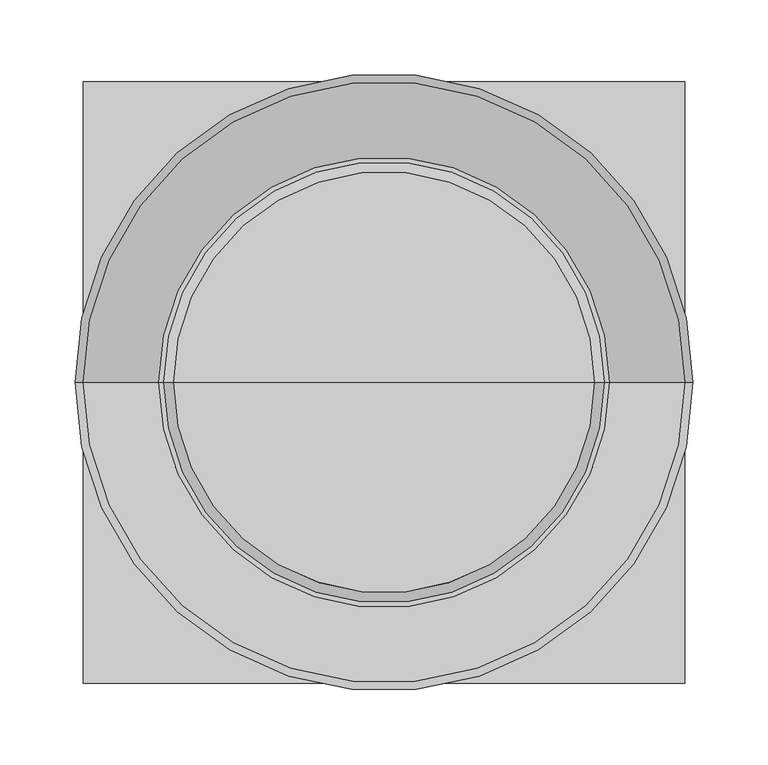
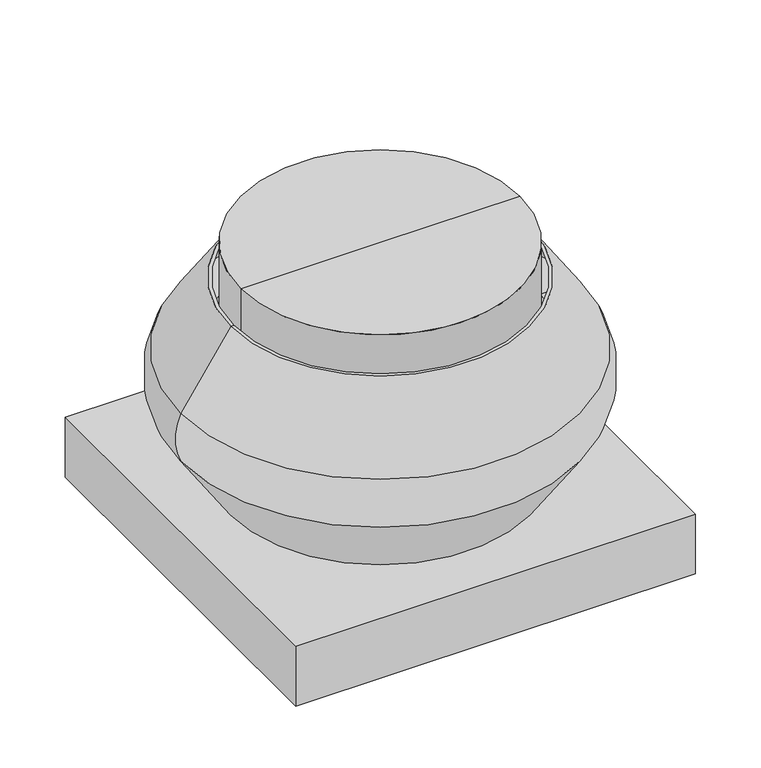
"""IFC4 building model written with IfcOpenShell, lengths in millimetres: unitary equipment geometry, M_Centrifugal Fan -  Rooftop  - Upblast : 991-1905 LPS."""

import ifcopenshell
import ifcopenshell.guid

model = None  # the IFC model being written
_history = None  # IfcOwnerHistory: only IFC2X3 demands one
_inside = {}  # id of a spatial element -> (the spatial element, [elements in it])
_under = {}  # id of a project, library or spatial element -> (it, [spatial elements below it])
_declared = {}  # id of a project -> (the project, [libraries it declares])
_typed = {}  # id of a type object -> (the type object, [elements of that type])
_made_of = {}  # id of a material, layer set ... -> (it, [elements and type objects made of it])


def new_model(schema):
    """Start an empty IFC model of exactly this schema.

    Asked for "IFC4X3", IfcOpenShell would pick the latest addendum, in which some entities
    have other attributes; the version numbers below select the first issue.
    IFC2X3 requires an IfcOwnerHistory on every rooted entity: one is made here for all.
    """
    global model, _history
    if schema == "IFC4X3":
        model = ifcopenshell.file(schema_version=(4, 3, 0, 0))
    else:
        model = ifcopenshell.file(schema=schema)
    _inside.clear()
    _under.clear()
    _declared.clear()
    _typed.clear()
    _made_of.clear()
    _history = None
    if model.schema == "IFC2X3":
        org = make("IfcOrganization", Name="unknown")
        user = make(
            "IfcPersonAndOrganization",
            ThePerson=make("IfcPerson", FamilyName="unknown"),
            TheOrganization=org,
        )
        app = make(
            "IfcApplication",
            ApplicationDeveloper=org,
            Version="unknown",
            ApplicationFullName="unknown",
            ApplicationIdentifier="unknown",
        )
        _history = make(
            "IfcOwnerHistory",
            OwningUser=user,
            OwningApplication=app,
            ChangeAction="ADDED",
            CreationDate=0,
        )
    return model


def make(cls, **values):
    """One entity of the class cls with the attributes given. An attribute that is None is left unset."""
    return model.create_entity(
        cls, **{name: value for name, value in values.items() if value is not None}
    )


def rooted(cls, **values):
    """An entity with a GlobalId (a new one), such as an element, a storey or a relation."""
    return make(cls, GlobalId=ifcopenshell.guid.new(), OwnerHistory=_history, **values)


def si_unit(unit_type, name, prefix=None):
    """IfcSIUnit, for example si_unit("LENGTHUNIT", "METRE", prefix="MILLI")."""
    return make("IfcSIUnit", UnitType=unit_type, Prefix=prefix, Name=name)


def assignment(units):
    """IfcUnitAssignment: the units of a project."""
    return None if units is None else make("IfcUnitAssignment", Units=units)


def point(xyz):
    """IfcCartesianPoint."""
    return None if xyz is None else make("IfcCartesianPoint", Coordinates=xyz)


def direction(xyz):
    """IfcDirection."""
    return None if xyz is None else make("IfcDirection", DirectionRatios=xyz)


def frame(location, z_axis=None, x_axis=None):
    """IfcAxis2Placement3D, a coordinate frame: its origin and axes. An axis left out is left unset."""
    return make(
        "IfcAxis2Placement3D",
        Location=point(location),
        Axis=direction(z_axis),
        RefDirection=direction(x_axis),
    )


def origin():
    """The frame at (0, 0, 0) with its axes left unset."""
    return frame((0.0, 0.0, 0.0))


def origin_with_axes():
    """The frame at (0, 0, 0) with the z axis (0, 0, 1) and the x axis (1, 0, 0) written out."""
    return frame((0.0, 0.0, 0.0), z_axis=(0.0, 0.0, 1.0), x_axis=(1.0, 0.0, 0.0))


def place(relative_to, where):
    """IfcLocalPlacement: puts the frame where relative to a parent placement (None: the world)."""
    return make(
        "IfcLocalPlacement", PlacementRelTo=relative_to, RelativePlacement=where
    )


def context(
    kind, dimensions, precision=None, world=None, true_north=None, identifier=None
):
    """IfcGeometricRepresentationContext, for example the 3D "Model" context."""
    return make(
        "IfcGeometricRepresentationContext",
        ContextIdentifier=identifier,
        ContextType=kind,
        CoordinateSpaceDimension=dimensions,
        Precision=precision,
        WorldCoordinateSystem=world,
        TrueNorth=true_north,
    )


def project(units=None, contexts=None):
    """IfcProject with its units and contexts."""
    return rooted(
        "IfcProject",
        Name="project",
        RepresentationContexts=contexts,
        UnitsInContext=assignment(units),
    )


def spatial(cls, under=None, at=None, **own):
    """A site, building, storey or space (cls), placed at a placement, below another one or the project."""
    s = rooted(cls, ObjectPlacement=at, **own)
    if under is not None:
        _under.setdefault(under.id(), (under, []))[1].append(s)
    return s


def polyline(points):
    """IfcPolyline through the points."""
    return make("IfcPolyline", Points=[point(p) for p in points])


def circle_curve(where, radius):
    """IfcCircle in the frame where."""
    return make("IfcCircle", Position=where, Radius=radius)


def ellipse_curve(where, semi_axis1, semi_axis2):
    """IfcEllipse in the frame where."""
    return make(
        "IfcEllipse", Position=where, SemiAxis1=semi_axis1, SemiAxis2=semi_axis2
    )


def trimmed(basis, trim1, trim2, sense, master):
    """IfcTrimmedCurve: the piece of a basis curve between two trims."""
    return make(
        "IfcTrimmedCurve",
        BasisCurve=basis,
        Trim1=trim1,
        Trim2=trim2,
        SenseAgreement=sense,
        MasterRepresentation=master,
    )


def shape(context_of_items, identifier, shape_type, items):
    """IfcShapeRepresentation: the items that make up one representation, for example the "Body"."""
    return make(
        "IfcShapeRepresentation",
        ContextOfItems=context_of_items,
        RepresentationIdentifier=identifier,
        RepresentationType=shape_type,
        Items=items,
    )


def source(mapping_origin, context_of_items, identifier, shape_type, items):
    """IfcRepresentationMap: a shape defined once, which mapped items show again and again."""
    return make(
        "IfcRepresentationMap",
        MappingOrigin=mapping_origin,
        MappedRepresentation=shape(context_of_items, identifier, shape_type, items),
    )


def transform(
    local_origin,
    x_axis=None,
    y_axis=None,
    z_axis=None,
    scale=None,
    scale2=None,
    scale3=None,
    uniform=True,
):
    """IfcCartesianTransformationOperator3D, or its non-uniform kind. x_axis, y_axis, z_axis: its Axis1, 2, 3."""
    if uniform:
        return make(
            "IfcCartesianTransformationOperator3D",
            Axis1=direction(x_axis),
            Axis2=direction(y_axis),
            LocalOrigin=point(local_origin),
            Scale=scale,
            Axis3=direction(z_axis),
        )
    return make(
        "IfcCartesianTransformationOperator3DnonUniform",
        Axis1=direction(x_axis),
        Axis2=direction(y_axis),
        LocalOrigin=point(local_origin),
        Scale=scale,
        Axis3=direction(z_axis),
        Scale2=scale2,
        Scale3=scale3,
    )


def mapped(mapping_source, mapping_target):
    """IfcMappedItem: shows the shape of a source again, moved by a transform."""
    return make(
        "IfcMappedItem", MappingSource=mapping_source, MappingTarget=mapping_target
    )


def made_of(thing, what):
    """Note that an element or type object is made of a material, layer set ...; save() writes the relation."""
    if what is not None:
        _made_of.setdefault(what.id(), (what, []))[1].append(thing)
    return thing


def element(
    cls,
    number,
    at=None,
    inside=None,
    cuts=None,
    type_object=None,
    material=None,
    context=None,
    identifier="Body",
    shape_type=None,
    held_by="IfcProductDefinitionShape",
    body=None,
    shapes=None,
    **own,
):
    """One element of the class cls, such as IfcWall. Its Tag is "e" and its number.

    at: its placement. inside: the storey or other place that contains it. cuts: it is an
    opening in that element (IfcRelVoidsElement). A single representation is given by context,
    identifier, shape_type and body (its items); several are given by shapes. held_by: the class
    of the entity that holds the representations. save() writes the other relations.
    """
    e = rooted(cls, Tag="e%d" % number, ObjectPlacement=at, **own)
    if body is not None:
        shapes = [shape(context, identifier, shape_type, body)]
    if shapes is not None:
        e.Representation = make(held_by, Representations=shapes)
    if inside is not None:
        _inside.setdefault(inside.id(), (inside, []))[1].append(e)
    if cuts is not None:
        rooted(
            "IfcRelVoidsElement", RelatingBuildingElement=cuts, RelatedOpeningElement=e
        )
    if type_object is not None:
        _typed.setdefault(type_object.id(), (type_object, []))[1].append(e)
    return made_of(e, material)


def aggregate(whole, parts):
    """IfcRelAggregates: a whole, such as a stair, and the parts it consists of."""
    return rooted("IfcRelAggregates", RelatingObject=whole, RelatedObjects=parts)


def save(model, path):
    """Write the relations noted so far, then the file.

    IfcRelAggregates (storeys below a building ...), IfcRelContainedInSpatialStructure (elements
    in a storey), IfcRelDefinesByType, IfcRelAssociatesMaterial and IfcRelDeclares: one each for
    every whole, place, type object, material and project.
    """
    for whole, parts in _under.values():
        aggregate(whole, parts)
    for where, things in _inside.values():
        rooted(
            "IfcRelContainedInSpatialStructure",
            RelatedElements=things,
            RelatingStructure=where,
        )
    for kind, things in _typed.values():
        rooted("IfcRelDefinesByType", RelatedObjects=things, RelatingType=kind)
    for what, things in _made_of.values():
        rooted("IfcRelAssociatesMaterial", RelatedObjects=things, RelatingMaterial=what)
    for by, libraries in _declared.values():
        rooted("IfcRelDeclares", RelatingContext=by, RelatedDefinitions=libraries)
    model.write(path)


def plane_surface(at):
    """IfcPlane: the flat surface through the origin of the frame at, square to its z axis."""
    return make("IfcPlane", Position=at)


def cylinder_surface(at, radius):
    """IfcCylindricalSurface: all points at the distance radius from the z axis of the frame at."""
    return make("IfcCylindricalSurface", Position=at, Radius=radius)


def revolved_surface(curve, axis_point, axis_direction):
    """IfcSurfaceOfRevolution: the curve turned about the line through axis_point along axis_direction."""
    return make(
        "IfcSurfaceOfRevolution",
        SweptCurve=make("IfcArbitraryOpenProfileDef", ProfileType="CURVE", Curve=curve),
        AxisPosition=make("IfcAxis1Placement", Location=point(axis_point), Axis=direction(axis_direction)),
    )


def advanced_brep(points, edges, surfaces, faces):
    """IfcAdvancedBrep: a solid bounded by faces that lie on surfaces and meet in shared edges.

    An edge is (start, end): straight between two places in points (the first is 0);
    or (start, end, curve); or (start, end, curve, False) where it runs against its curve.
    A face is (place in surfaces, loops), or (place, loops, False) where it looks against
    its surface's normal. A loop lists edges by number (the first is 1), with a minus sign
    where the edge is run from its end to its start. The first loop is the outer one.
    """
    corners = [point(p) for p in points]
    vertices = [make("IfcVertexPoint", VertexGeometry=c) for c in corners]
    made = []
    for start, end, *more in edges:
        made.append(
            make(
                "IfcEdgeCurve",
                EdgeStart=vertices[start],
                EdgeEnd=vertices[end],
                EdgeGeometry=more[0] if more else make("IfcPolyline", Points=[corners[start], corners[end]]),
                SameSense=more[1] if len(more) > 1 else True,
            )
        )
    hull = []
    for where, loops, *sense in faces:
        bounds = []
        for j, loop in enumerate(loops):
            ring = [make("IfcOrientedEdge", EdgeElement=made[abs(k) - 1], Orientation=k > 0) for k in loop]
            bounds.append(
                make(
                    "IfcFaceOuterBound" if j == 0 else "IfcFaceBound",
                    Bound=make("IfcEdgeLoop", EdgeList=ring),
                    Orientation=True,
                )
            )
        hull.append(make("IfcAdvancedFace", Bounds=bounds, FaceSurface=surfaces[where], SameSense=sense[0] if sense else True))
    return make("IfcAdvancedBrep", Outer=make("IfcClosedShell", CfsFaces=hull))


def unitary_equipment_b826a94b(model_context):
    return source(origin(), model_context, "Body", "AdvancedBrep", [
        advanced_brep(
        [(200.0, 0.0, 188.9), (-200.0, 0.0, 188.9), (-150.0, 0.0, 263.5), (150.0, 0.0, 263.5), (200.0, 0.0, 138.1), (-200.0, 0.0, 138.1), (150.0, 0.0, 63.5), (-150.0, 0.0, 63.5), (125.0, 0.0, 63.5), (0.0, 0.0, 63.5), (-125.0, 0.0, 63.5), (-146.825, 0.0, 263.5), (146.825, 0.0, 263.5), (196.825, 0.0, 188.9), (-196.825, 0.0, 188.9), (-160.0, 0.0, 188.9), (160.0, 0.0, 188.9), (200.0, 200.0, 63.5), (-200.0, 200.0, 63.5), (-200.0, -200.0, 63.5), (200.0, -200.0, 63.5), (200.0, 200.0, 0.0), (200.0, -200.0, 0.0), (-200.0, -200.0, 0.0), (-200.0, 200.0, 0.0), (-125.0, 0.0, 0.0), (125.0, 0.0, 0.0), (-140.0, 0.0, 300.0), (140.0, 0.0, 300.0), (140.0, 0.0, 223.8), (-140.0, 0.0, 223.8), (0.0, 0.0, 300.0)],
        [
            (0, 1, circle_curve(frame((0.0, 0.0, 188.9), z_axis=(0.0, 0.0, 1.0), x_axis=(-1.0, 0.0, 0.0)), 200.0)),
            (1, 2),
            (2, 3, circle_curve(frame((0.0, 0.0, 263.5), z_axis=(0.0, 0.0, -1.0), x_axis=(-1.0, 0.0, 0.0)), 150.0)),
            (3, 0),
            (1, 0, circle_curve(frame((0.0, 0.0, 188.9), z_axis=(0.0, 0.0, 1.0), x_axis=(-1.0, 0.0, 0.0)), 200.0)),
            (3, 2, circle_curve(frame((0.0, 0.0, 263.5), z_axis=(0.0, 0.0, -1.0), x_axis=(-1.0, 0.0, 0.0)), 150.0)),
            (0, 4, circle_curve(frame((145.762406, 0.0, 163.5), z_axis=(0.0, 1.0, 0.0), x_axis=(-1.0, 0.0, 0.0)), 59.8905385)),
            (4, 5, circle_curve(frame((0.0, 0.0, 138.1), z_axis=(0.0, 0.0, 1.0), x_axis=(-1.0, 0.0, 0.0)), 200.0)),
            (5, 1, circle_curve(frame((-145.762406, 0.0, 163.5), z_axis=(0.0, 1.0, 0.0), x_axis=(1.0, 0.0, 0.0)), 59.8905385)),
            (5, 4, circle_curve(frame((0.0, 0.0, 138.1), z_axis=(0.0, 0.0, 1.0), x_axis=(-1.0, 0.0, 0.0)), 200.0)),
            (4, 6),
            (6, 7, circle_curve(frame((0.0, 0.0, 63.5), z_axis=(0.0, 0.0, 1.0), x_axis=(-1.0, 0.0, 0.0)), 150.0)),
            (7, 5),
            (7, 6, circle_curve(frame((0.0, 0.0, 63.5), z_axis=(0.0, 0.0, 1.0), x_axis=(-1.0, 0.0, 0.0)), 150.0)),
            (8, 9),
            (9, 10),
            (10, 8, circle_curve(frame((0.0, 0.0, 63.5), z_axis=(0.0, 0.0, -1.0), x_axis=(1.0, 0.0, 0.0)), 125.0)),
            (8, 10, circle_curve(frame((0.0, 0.0, 63.5), z_axis=(0.0, 0.0, -1.0), x_axis=(1.0, 0.0, 0.0)), 125.0)),
            (2, 11),
            (11, 12, circle_curve(frame((0.0, 0.0, 263.5), z_axis=(0.0, 0.0, -1.0), x_axis=(-1.0, 0.0, 0.0)), 146.825)),
            (12, 3),
            (12, 11, circle_curve(frame((0.0, 0.0, 263.5), z_axis=(0.0, 0.0, -1.0), x_axis=(-1.0, 0.0, 0.0)), 146.825)),
            (13, 12),
            (11, 14),
            (14, 13, circle_curve(frame((0.0, 0.0, 188.9), z_axis=(0.0, 0.0, -1.0), x_axis=(-1.0, 0.0, 0.0)), 196.825)),
            (13, 14, circle_curve(frame((0.0, 0.0, 188.9), z_axis=(0.0, 0.0, -1.0), x_axis=(-1.0, 0.0, 0.0)), 196.825)),
            (14, 15),
            (15, 16, circle_curve(frame((0.0, 0.0, 188.9), z_axis=(0.0, 0.0, -1.0), x_axis=(1.0, 0.0, 0.0)), 160.0)),
            (16, 13),
            (16, 15, circle_curve(frame((0.0, 0.0, 188.9), z_axis=(0.0, 0.0, -1.0), x_axis=(1.0, 0.0, 0.0)), 160.0)),
            (17, 18),
            (18, 19),
            (19, 20),
            (20, 17),
            (21, 22),
            (22, 23),
            (23, 24),
            (24, 21),
            (25, 26, circle_curve(origin_with_axes(), 125.0)),
            (26, 25, circle_curve(origin_with_axes(), 125.0)),
            (17, 21),
            (24, 18),
            (23, 19),
            (22, 20),
            (25, 10),
            (8, 26),
            (27, 28, circle_curve(frame((0.0, 0.0, 300.0), z_axis=(0.0, 0.0, -1.0), x_axis=(1.0, 0.0, 0.0)), 140.0)),
            (28, 29),
            (29, 30, circle_curve(frame((0.0, 0.0, 223.8), z_axis=(0.0, 0.0, 1.0), x_axis=(1.0, 0.0, 0.0)), 140.0)),
            (30, 27),
            (28, 27, circle_curve(frame((0.0, 0.0, 300.0), z_axis=(0.0, 0.0, -1.0), x_axis=(1.0, 0.0, 0.0)), 140.0)),
            (30, 29, circle_curve(frame((0.0, 0.0, 223.8), z_axis=(0.0, 0.0, 1.0), x_axis=(1.0, 0.0, 0.0)), 140.0)),
            (27, 31),
            (31, 28),
            (29, 16),
            (15, 30),
        ],
        [
            revolved_surface(polyline([(-150.0, 0.0, 263.5), (-200.0, 0.0, 188.9)]), (0.0, 0.0, 263.5), (0.0, 0.0, -1.0)),
            revolved_surface(trimmed(ellipse_curve(frame((-145.762406, 0.0, 163.5), z_axis=(0.0, -1.0, 0.0), x_axis=(1.0, 0.0, 0.0)), 59.8905385, 59.8905385), [point((-200.0, 0.0, 188.9))], [point((-200.0, 0.0, 138.1))], True, "CARTESIAN"), (0.0, 0.0, 263.5), (0.0, 0.0, -1.0)),
            revolved_surface(polyline([(-200.0, 0.0, 138.1), (-150.0, 0.0, 63.5)]), (0.0, 0.0, 263.5), (0.0, 0.0, -1.0)),
            plane_surface(frame((0.0, 0.0, 63.5), z_axis=(0.0, 0.0, -1.0), x_axis=(-1.0, 0.0, 0.0))),
            plane_surface(frame((0.0, 0.0, 263.5), z_axis=(0.0, 0.0, 1.0), x_axis=(-1.0, 0.0, 0.0))),
            revolved_surface(polyline([(-196.825, 0.0, 188.9), (-146.825, 0.0, 263.5)]), (0.0, 0.0, 263.5), (0.0, 0.0, -1.0)),
            plane_surface(frame((0.0, 0.0, 188.9), z_axis=(0.0, 0.0, 1.0), x_axis=(-1.0, 0.0, 0.0))),
            plane_surface(frame((-200.0, 200.0, 63.5), z_axis=(0.0, 0.0, 1.0), x_axis=(-1.0, 0.0, 0.0))),
            plane_surface(frame((-200.0, 200.0, 0.0), z_axis=(0.0, 0.0, -1.0), x_axis=(1.0, 0.0, 0.0))),
            plane_surface(frame((200.0, 200.0, 63.5), z_axis=(0.0, 1.0, 0.0), x_axis=(0.0, 0.0, -1.0))),
            plane_surface(frame((-200.0, 200.0, 63.5), z_axis=(-1.0, 0.0, 0.0), x_axis=(0.0, 0.0, -1.0))),
            plane_surface(frame((-200.0, -200.0, 63.5), z_axis=(0.0, -1.0, 0.0), x_axis=(0.0, 0.0, -1.0))),
            plane_surface(frame((200.0, -200.0, 63.5), z_axis=(1.0, 0.0, 0.0), x_axis=(0.0, 0.0, -1.0))),
            revolved_surface(polyline([(125.0, 0.0, 63.5), (125.0, 0.0, 0.0)]), (0.0, 0.0, 0.0), (0.0, 0.0, 1.0)),
            cylinder_surface(frame((0.0, 0.0, 300.0), z_axis=(0.0, 0.0, 1.0), x_axis=(1.0, 0.0, 0.0)), 140.0),
            plane_surface(frame((0.0, 0.0, 300.0), z_axis=(0.0, 0.0, 1.0), x_axis=(1.0, 0.0, 0.0))),
            revolved_surface(polyline([(160.0, 0.0, 188.9), (140.0, 0.0, 223.8)]), (0.0, 0.0, 300.0), (0.0, 0.0, 1.0)),
        ],
        [
            (0, [[1, 2, 3, 4]]),
            (0, [[-2, 5, -4, 6]]),
            (1, [[-1, 7, 8, 9]]),
            (1, [[-5, -9, 10, -7]]),
            (2, [[-8, 11, 12, 13]]),
            (2, [[-10, -13, 14, -11]]),
            (3, [[15, 16, 17]]),
            (3, [[-15, 18, -16]]),
            (4, [[-3, 19, 20, 21]]),
            (4, [[-6, -21, 22, -19]]),
            (5, [[23, -20, 24, 25]]),
            (5, [[-23, 26, -24, -22]]),
            (6, [[-25, 27, 28, 29]]),
            (6, [[-26, -29, 30, -27]]),
            (7, [[31, 32, 33, 34], [-12, -14]]),
            (8, [[35, 36, 37, 38], [39, 40]]),
            (9, [[-31, 41, -38, 42]]),
            (10, [[-32, -42, -37, 43]]),
            (11, [[-33, -43, -36, 44]]),
            (12, [[-34, -44, -35, -41]]),
            (13, [[45, -18, 46, -39]]),
            (13, [[-45, -40, -46, -17]]),
            (14, [[47, 48, 49, 50]]),
            (14, [[-48, 51, -50, 52]]),
            (15, [[-47, 53, 54]]),
            (15, [[-51, -54, -53]]),
            (16, [[-49, 55, -28, 56]]),
            (16, [[-52, -56, -30, -55]]),
        ],
    ),
    ])


if __name__ == "__main__":
    model = new_model("IFC4")
    model_context = context("Model", 3, world=origin())
    ifc_project = project(units=[si_unit("LENGTHUNIT", "METRE", prefix="MILLI")], contexts=[model_context])
    site = spatial("IfcSite", under=ifc_project)
    building = spatial("IfcBuilding", under=site)
    placement = place(None, origin())
    unitary_equipment_shape = unitary_equipment_b826a94b(model_context)
    element("IfcUnitaryEquipment", 1, ObjectType="M_Centrifugal Fan -  Rooftop  - Upblast : 991-1905 LPS", at=placement, inside=building, context=model_context, shape_type="MappedRepresentation", body=[
        mapped(unitary_equipment_shape, transform((0.0, 0.0, 0.0), x_axis=(1.0, 0.0, 0.0), y_axis=(0.0, 1.0, 0.0), z_axis=(0.0, 0.0, 1.0))),
    ])
    save(model, "model.ifc")
